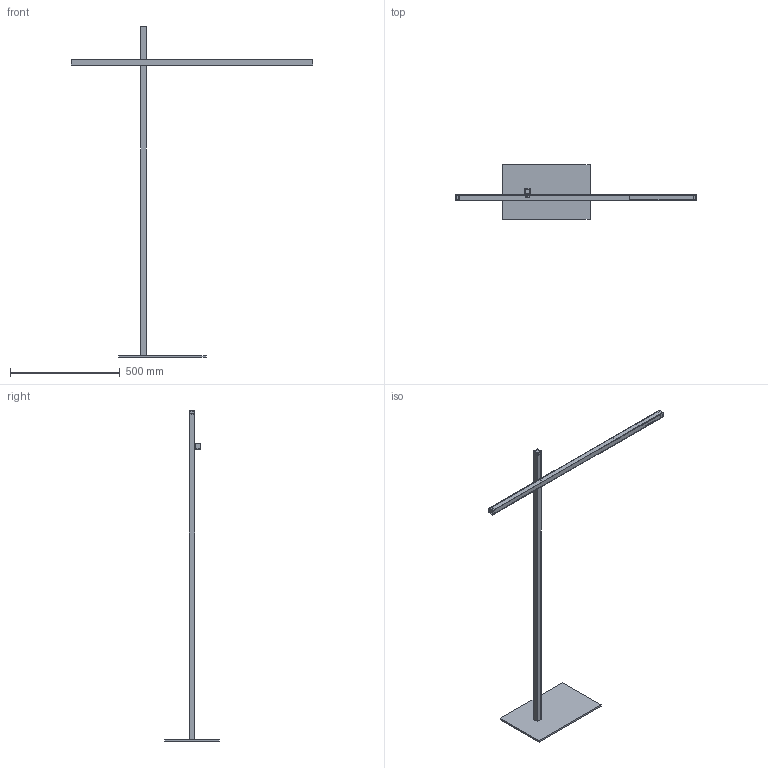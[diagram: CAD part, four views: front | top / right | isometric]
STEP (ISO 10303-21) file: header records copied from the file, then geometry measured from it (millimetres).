
FILE_DESCRIPTION(/* description */ (''),/* implementation_level */ '2;1');
FILE_NAME(/* name */ 'C:\Users\S.TOSI\Desktop\WIP\MODELLI 3D\1903XX00 - HASHI\1903XX00 HASHI.stp',/* time_stamp */ '2018-07-24T11:03:34+02:00',/* author */ ('s.tosi'),/* organization */ (''),/* preprocessor_version */ 'ST-DEVELOPER v17',/* originating_system */ 'Autodesk Inventor 2019',/* authorisation */ '');
FILE_SCHEMA (('AUTOMOTIVE_DESIGN { 1 0 10303 214 3 1 1 }'));
Length unit declared in the file: millimetre
Products named in the file (1): 1903XX00 HASHI
Bounding box: 1100 x 250 x 1508 mm (x, y, z)
Volume: 1238840 mm3; surface area: 747817.9 mm2
Topology: 12 solids, 12 shells, 144 faces, 345 edges, 226 vertices
Faces by surface type: plane 102, cylinder 36, cone 6
Full cylindrical faces by diameter (mm): 11.5 x1, 14.5 x1, 14.7 x1
Entity records: 4415 total; most frequent: CARTESIAN_POINT 737, DIRECTION 719, ORIENTED_EDGE 690, EDGE_CURVE 345, LINE 255, VECTOR 255, AXIS2_PLACEMENT_3D 232, VERTEX_POINT 226
